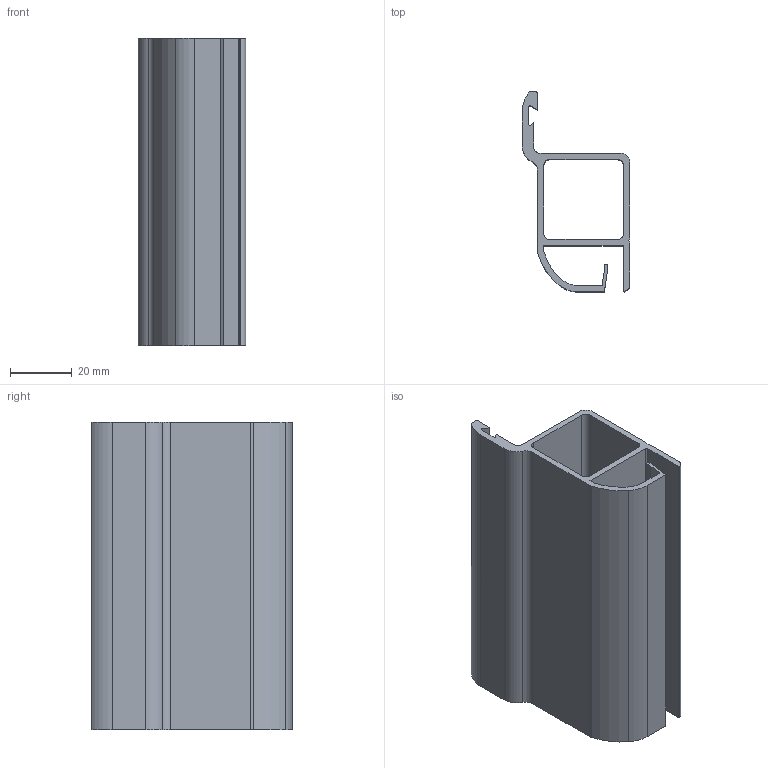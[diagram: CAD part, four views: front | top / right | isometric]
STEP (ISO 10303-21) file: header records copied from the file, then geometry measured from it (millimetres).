
FILE_DESCRIPTION (( 'STEP AP214' ), '1' );
FILE_NAME ('A40820.step', '2024-12-03T16:13:32', ( '' ), ( '' ), 'SwSTEP 2.0', 'SolidWorks 2023', '' );
FILE_SCHEMA (( 'AUTOMOTIVE_DESIGN' ));
Length unit declared in the file: millimetre
Products named in the file (1): A40820
Bounding box: 35 x 65 x 100 mm (x, y, z)
Volume: 39816 mm3; surface area: 38009.2 mm2
Topology: 1 solids, 1 shells, 53 faces, 153 edges, 102 vertices
Faces by surface type: plane 27, cylinder 26
Entity records: 1786 total; most frequent: DIRECTION 313, CARTESIAN_POINT 309, ORIENTED_EDGE 306, EDGE_CURVE 153, AXIS2_PLACEMENT_3D 106, VERTEX_POINT 102, LINE 101, VECTOR 101
